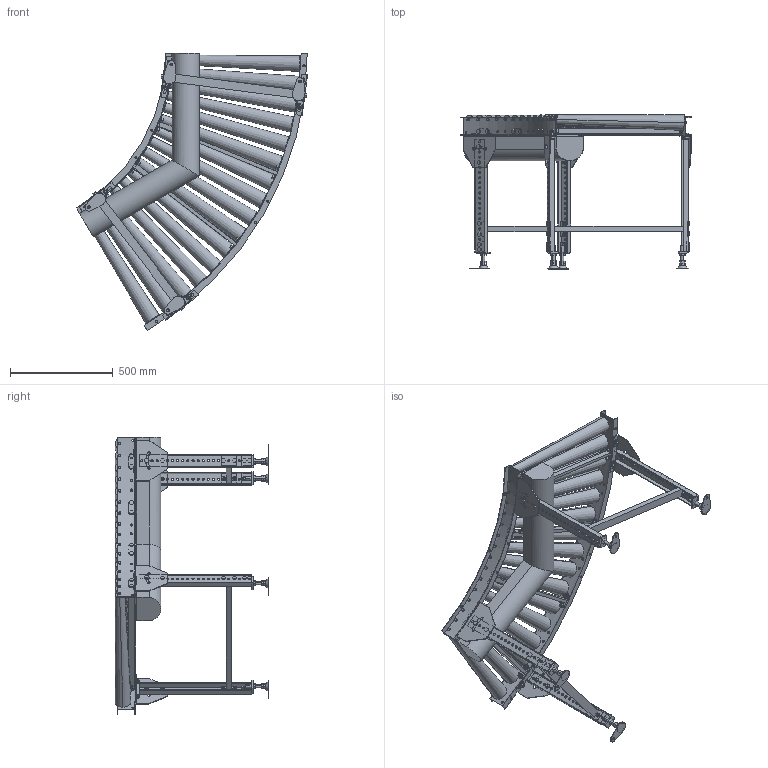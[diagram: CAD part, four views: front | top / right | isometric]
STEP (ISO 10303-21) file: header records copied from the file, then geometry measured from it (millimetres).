
FILE_DESCRIPTION (( 'STEP AP214' ), '1' );
FILE_NAME ('MCD50C9-60-630-75.STEP', '2022-08-01T06:55:44', ( '' ), ( '' ), 'SwSTEP 2.0', 'SolidWorks 2017', '' );
FILE_SCHEMA (( 'AUTOMOTIVE_DESIGN' ));
Length unit declared in the file: millimetre
Products named in the file (1): MCD50C9-60-630-75
Bounding box: 1126.07 x 750 x 1351 mm (x, y, z)
Volume: 50211299.4 mm3; surface area: 4528578.7 mm2
Topology: 19 solids, 39 shells, 2623 faces, 6258 edges, 3950 vertices
Faces by surface type: plane 1839, cylinder 744, cone 40
Entity records: 113231 total; most frequent: CARTESIAN_POINT 21851, DIRECTION 13199, ORIENTED_EDGE 12516, EDGE_CURVE 6258, AXIS2_PLACEMENT_3D 4606, VECTOR 3987, LINE 3987, VERTEX_POINT 3950
